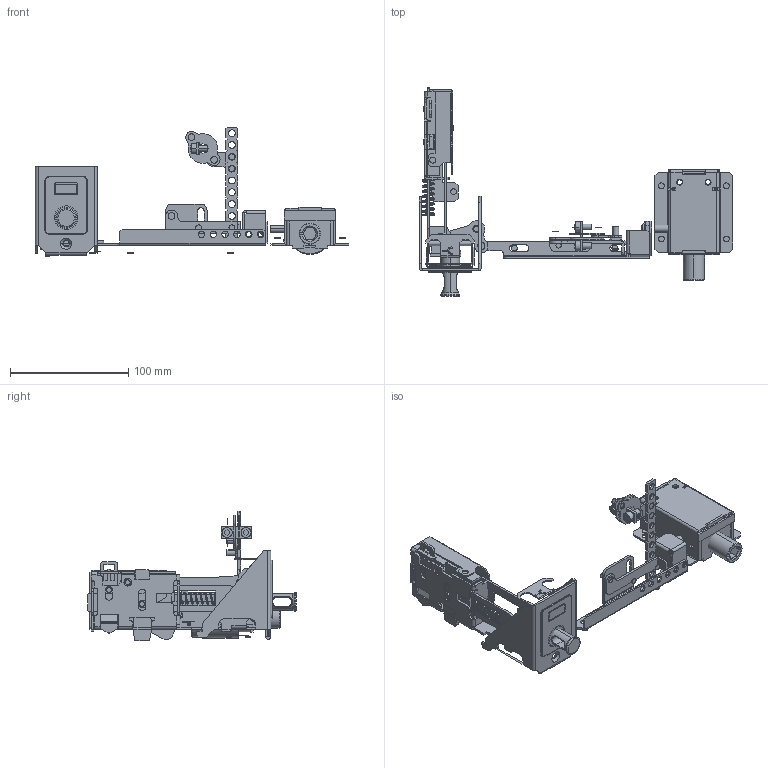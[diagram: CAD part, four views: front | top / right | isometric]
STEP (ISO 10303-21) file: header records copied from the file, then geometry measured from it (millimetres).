
FILE_DESCRIPTION(('CAx-IF Rec.Pracs.---Model Styling and Organization---1.2---2011-12-15','CAx-IF Rec.Pracs.---Geometric and Assembly Validation Properties---4.1---2014-06-16','CAx-IF Rec.Pracs.---PMI Polyline Presentation---2.0---2013-05-24'),'2;1');
FILE_NAME('R5M2WWM3.stp','2021-05-05T12:55:07+03:00',(''),(''),'STEP Interface 4.4 by CT CoreTechnologie','3D_Evolution4.4 by CT CoreTechnologie','');
FILE_SCHEMA(('AUTOMOTIVE_DESIGN { 1 0 10303 214 1 1 1 1 }'));
Length unit declared in the file: millimetre
Products named in the file (45): R5M2WWM3; RB.1497.00.00.0 ÑÁ_-01; M5x10-GOST 11738-84 (DIN 912)_stright; Ì4-GOST R 50273-92 (DIN 985)_stright DIN EN ISO 10511 - M4 - N; RB.1497.00.04.0_-00; RB.1497.00.01.0_-00; RB.1497.00.02.0; M5x8-DIN7500C_stright; RB.1497.00.03.0_-01; RB.1497.00.06.0_-00; RB.1419.00.02.0_-02; RB.1419.00.02.0_-01; M6-DIN 985 (ISO 10511) (CM250600)_stright; RB.1513.00.00.0; RB.1505.00.06.0; RB.1505.00.04.0_-00; RB.1505.00.05.0_-00; A.6.01-GOST 11371-78 (DIN 125A) (CM240600)_ ©¡  A.6.016  11371-78; RB.1505.00.03.0_-00; RB.1504.00.00.0 ÑÁ; RB.1504.00.01.0; RB.1504.00.02.0_-01; RB.1504.00.02.0_-00; RB.1504.00.03.0; RB.1504.01.00.0 ÑÁ; RB.1504.01.01.0; RB.1500.00.00.1 ÑÁ_-00 (ëª«); 4 GOST 11371-78 (DIN 125)_ ©¡  4  11371-78 (DIN 125); M4x25 GOST 17473-80 (DIN 7985)_stright; RB.1500.00.10.0_In prestressed condition - 30 mm; RB.1500.00.07.0; RB.1500.00.08.1; RB.1500.00.06.0; M4x16 GOST 17473-80 (DIN 7985)_stright; RB.1500.00.05.1; RB.1500.00.02.0; RB.1500.00.03.0; RB.1500.00.04.1_-00; RB.1503.00.00.0 ÑÁ; RB.1503.00.01.0_-00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
Assembly tree (66 placements, depth 4):
  R5M2WWM3
    RB.1497.00.00.0 ÑÁ_-01
      M5x10-GOST 11738-84 (DIN 912)_stright  x2
      Ì4-GOST R 50273-92 (DIN 985)_stright DIN EN ISO 10511 - M4 - N  x5
      RB.1497.00.04.0_-00
      RB.1497.00.01.0_-00
      RB.1497.00.02.0
      M5x8-DIN7500C_stright  x2
      RB.1497.00.03.0_-01
      RB.1497.00.06.0_-00
      RB.1419.00.02.0_-02
      RB.1419.00.02.0_-01
    M6-DIN 985 (ISO 10511) (CM250600)_stright
    RB.1513.00.00.0
    RB.1505.00.06.0
    RB.1505.00.04.0_-00
    RB.1505.00.05.0_-00
    A.6.01-GOST 11371-78 (DIN 125A) (CM240600)_ ©¡  A.6.016  11371-78
    RB.1505.00.03.0_-00
    Ì4-GOST R 50273-92 (DIN 985)_stright DIN EN ISO 10511 - M4 - N  x11
    RB.1504.00.00.0 ÑÁ
      RB.1504.00.01.0
      RB.1504.00.02.0_-01
      RB.1504.00.02.0_-00
      RB.1504.00.03.0
      RB.1504.01.00.0 ÑÁ
        RB.1504.01.01.0
    RB.1500.00.00.1 ÑÁ_-00 (ëª«)
      4 GOST 11371-78 (DIN 125)_ ©¡  4  11371-78 (DIN 125)  x2
      M4x25 GOST 17473-80 (DIN 7985)_stright
      RB.1500.00.10.0_In prestressed condition - 30 mm
      Ì4-GOST R 50273-92 (DIN 985)_stright DIN EN ISO 10511 - M4 - N  x3
      M6-DIN 985 (ISO 10511) (CM250600)_stright
      RB.1500.00.07.0
      RB.1500.00.08.1
      RB.1500.00.06.0
      M4x16 GOST 17473-80 (DIN 7985)_stright  x2
      RB.1500.00.05.1
      RB.1500.00.02.0
      RB.1500.00.03.0
      RB.1500.00.04.1_-00
    RB.1503.00.00.0 ÑÁ
      RB.1503.00.01.0_-00
      RB.1503.00.03.0_123
      RB.1503.00.05.0_123
      RB.1503.00.06.0_-00
      RB.1503.00.07.0_-00
  RB.1503.00.08.0_'­ ª«¥¥­­ ï'
Bounding box: 265.45 x 176.6 x 109.5 mm (x, y, z)
Surface area: 141768.7 mm2 (no closed solid volume)
Topology: 0 solids, 85 shells, 1616 faces, 4258 edges, 2733 vertices
Faces by surface type: plane 976, cylinder 541, bspline 99
Full cylindrical faces by diameter (mm): 3.2 x2
Entity records: 55053 total; most frequent: CARTESIAN_POINT 14633, ORIENTED_EDGE 7984, DIRECTION 7833, EDGE_CURVE 4020, VECTOR 2867, LINE 2867, VERTEX_POINT 2589, AXIS2_PLACEMENT_3D 2483
